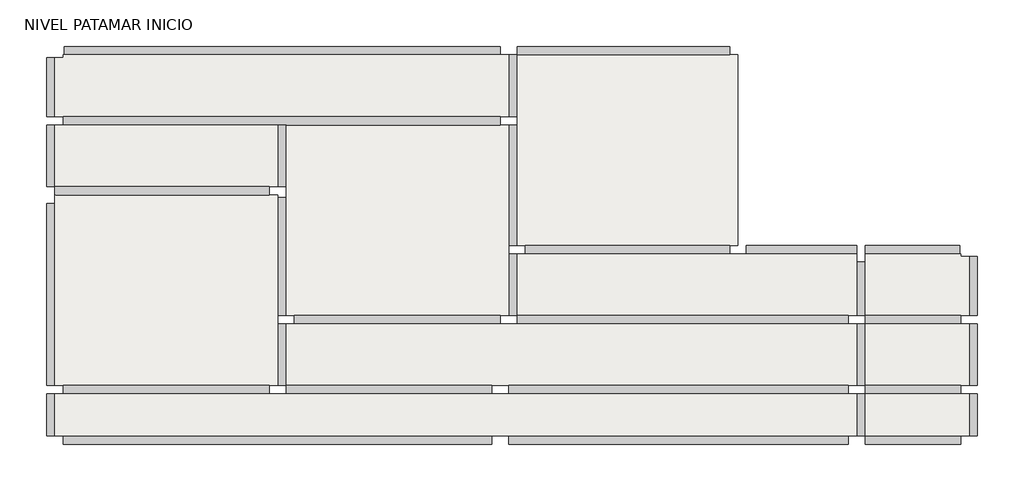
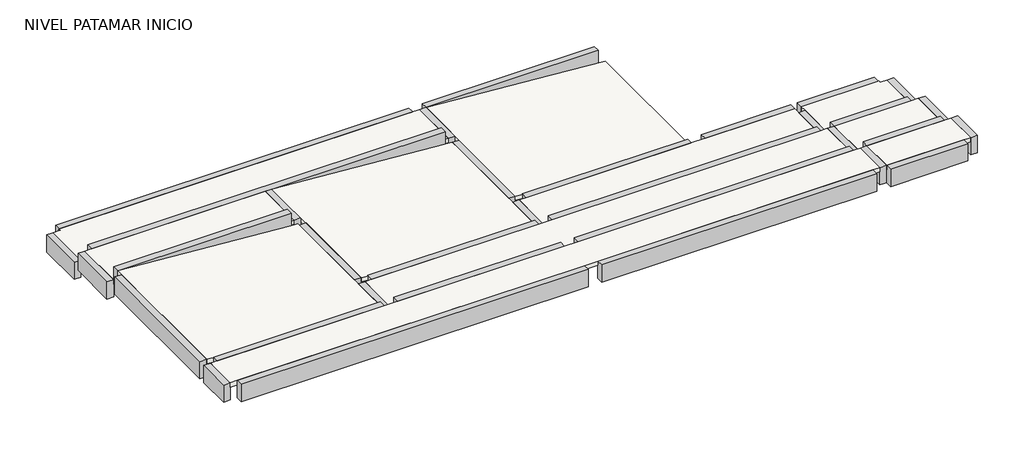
# One storey: 18 beams, 11 slabs.
"""IFC4 building model written with IfcOpenShell, lengths in millimetres."""

from ifc_helpers import new_model, si_unit, frame, origin, place, context, project, spatial, polyline, outline, extrude, faceted_brep, element, save

model = new_model("IFC4")

# Units and contexts
model_context = context("Model", 3, world=origin())
ifc_project = project(units=[si_unit("LENGTHUNIT", "METRE", prefix="MILLI")], contexts=[model_context])

# Site, building, storey
site = spatial("IfcSite", under=ifc_project)
building = spatial("IfcBuilding", under=site)
storey = spatial("IfcBuildingStorey", under=building, Name="NIVEL PATAMAR INICIO", Elevation=3600.0)

# Beams
placement = place(None, origin())
element("IfcBeam", 1, ObjectType="TQS - Viga retangular : 15,0 x 40,0", at=placement, inside=storey, context=model_context, shape_type="Brep", body=[
    faceted_brep([(38120.0, -10880.0, 3600.0), (38120.0, -11030.0, 3600.0), (45760.0, -11030.0, 3600.0), (45760.0, -10880.0, 3600.0), (38120.0, -11030.0, 3200.0), (45760.0, -11030.0, 3200.0), (38120.0, -10880.0, 3200.0), (45760.0, -10880.0, 3200.0)], [[[0, 1, 2, 3]], [[1, 4, 5, 2]], [[4, 6, 7, 5]], [[6, 0, 3, 7]], [[1, 0, 6, 4]], [[3, 2, 5, 7]]]),
    faceted_brep([(46060.0, -11030.0, 3600.0), (46060.0, -10880.0, 3600.0), (46060.0, -10880.0, 3200.0), (46060.0, -11030.0, 3200.0), (52120.0, -10880.0, 3600.0), (52120.0, -11030.0, 3600.0), (52120.0, -11030.0, 3200.0), (52120.0, -10880.0, 3200.0)], [[[0, 1, 2, 3]], [[4, 5, 6, 7]], [[1, 0, 5, 4]], [[0, 3, 6, 5]], [[3, 2, 7, 6]], [[2, 1, 4, 7]]]),
    faceted_brep([(52420.0, -10880.0, 3600.0), (52420.0, -11030.0, 3600.0), (54120.0, -11030.0, 3600.0), (54120.0, -10880.0, 3600.0), (52420.0, -11030.0, 3200.0), (54120.0, -11030.0, 3200.0), (52420.0, -10880.0, 3200.0), (54120.0, -10880.0, 3200.0), (52420.0, -10880.0, 3500.0)], [[[0, 1, 2, 3]], [[1, 4, 5, 2]], [[4, 6, 7, 5]], [[6, 8, 0, 3, 7]], [[1, 0, 8, 6, 4]], [[3, 2, 5, 7]]]),
])
element("IfcBeam", 2, ObjectType="TQS - Viga retangular : 15,0 x 40,0", at=placement, inside=storey, context=model_context, shape_type="Brep", body=[
    faceted_brep([(38120.0, -9980.0, 3600.0), (38120.0, -10130.0, 3600.0), (41790.0, -10130.0, 3600.0), (41790.0, -9980.0, 3600.0), (38120.0, -10130.0, 3200.0), (41790.0, -10130.0, 3200.0), (38120.0, -9980.0, 3200.0), (41790.0, -9980.0, 3200.0)], [[[0, 1, 2, 3]], [[1, 4, 5, 2]], [[4, 6, 7, 5]], [[6, 0, 3, 7]], [[1, 0, 6, 4]], [[3, 2, 5, 7]]]),
    faceted_brep([(42090.0, -10130.0, 3600.0), (42090.0, -9980.0, 3600.0), (42090.0, -9980.0, 3300.0), (42090.0, -9980.0, 3200.0), (42090.0, -10130.0, 3200.0), (45760.0, -9980.0, 3600.0), (45760.0, -10130.0, 3600.0), (45760.0, -10130.0, 3200.0), (45760.0, -9980.0, 3200.0)], [[[0, 1, 2, 3, 4]], [[5, 6, 7, 8]], [[1, 0, 6, 5]], [[0, 4, 7, 6]], [[4, 3, 8, 7]], [[3, 2, 1, 5, 8]]]),
    faceted_brep([(52120.0, -9980.0, 3600.0), (46060.0, -9980.0, 3600.0), (46060.0, -10130.0, 3600.0), (52120.0, -10130.0, 3600.0), (46060.0, -10130.0, 3200.0), (52120.0, -10130.0, 3200.0), (46060.0, -9980.0, 3200.0), (52120.0, -9980.0, 3200.0)], [[[0, 1, 2, 3]], [[3, 2, 4, 5]], [[5, 4, 6, 7]], [[1, 0, 7, 6]], [[2, 1, 6, 4]], [[0, 3, 5, 7]]]),
    faceted_brep([(52420.0, -10130.0, 3600.0), (52420.0, -9980.0, 3600.0), (52420.0, -9980.0, 3300.0), (52420.0, -9980.0, 3200.0), (52420.0, -10130.0, 3200.0), (52420.0, -10130.0, 3500.0), (54120.0, -9980.0, 3600.0), (54120.0, -10130.0, 3600.0), (54120.0, -10130.0, 3200.0), (54120.0, -9980.0, 3200.0)], [[[0, 1, 2, 3, 4, 5]], [[6, 7, 8, 9]], [[1, 0, 7, 6]], [[0, 5, 4, 8, 7]], [[4, 3, 9, 8]], [[3, 2, 1, 6, 9]]]),
])
element("IfcBeam", 3, ObjectType="TQS - Viga retangular : 15,0 x 40,0", at=placement, inside=storey, context=model_context, shape_type="Brep", body=[
    faceted_brep([(52420.0, -10130.0, 3600.0), (52270.0, -10130.0, 3600.0), (52270.0, -10880.0, 3600.0), (52420.0, -10880.0, 3600.0), (52420.0, -10130.0, 3200.0), (52420.0, -10130.0, 3500.0), (52420.0, -10880.0, 3500.0), (52420.0, -10880.0, 3200.0), (52270.0, -10130.0, 3200.0), (52270.0, -10880.0, 3200.0), (52270.0, -10130.0, 3500.0), (52270.0, -10880.0, 3500.0)], [[[0, 1, 2, 3]], [[4, 5, 0, 3, 6, 7]], [[8, 4, 7, 9]], [[1, 10, 8, 9, 11, 2]], [[2, 11, 9, 7, 6, 3]], [[1, 0, 5, 4, 8, 10]]]),
])
element("IfcBeam", 4, ObjectType="TQS - Viga retangular : 15,0 x 40,0", at=placement, inside=storey, context=model_context, shape_type="Brep", body=[
    faceted_brep([(37820.0, -10880.0, 3600.0), (37970.0, -10880.0, 3600.0), (37970.0, -10130.0, 3600.0), (37820.0, -10130.0, 3600.0), (37970.0, -10880.0, 3500.0), (37970.0, -10880.0, 3200.0), (37970.0, -10130.0, 3200.0), (37970.0, -10130.0, 3500.0), (37820.0, -10880.0, 3200.0), (37820.0, -10130.0, 3200.0)], [[[0, 1, 2, 3]], [[1, 4, 5, 6, 7, 2]], [[5, 8, 9, 6]], [[8, 0, 3, 9]], [[1, 0, 8, 5, 4]], [[3, 2, 7, 6, 9]]]),
    faceted_brep([(37970.0, -9980.0, 3600.0), (37820.0, -9980.0, 3600.0), (37820.0, -9980.0, 3200.0), (37970.0, -9980.0, 3200.0), (37970.0, -9980.0, 3499.7148897), (37970.0, -6730.0, 3600.0), (37820.0, -6730.0, 3600.0), (37970.0, -6730.0, 3200.0), (37820.0, -6730.0, 3200.0)], [[[0, 1, 2, 3, 4]], [[1, 0, 5, 6]], [[0, 4, 3, 7, 5]], [[3, 2, 8, 7]], [[2, 1, 6, 8]], [[6, 5, 7, 8]]]),
])
element("IfcBeam", 5, ObjectType="TQS - Viga retangular : 15,0 x 40,0", at=placement, inside=storey, context=model_context, shape_type="Brep", body=[
    faceted_brep([(41940.0, -9980.0, 3300.0), (42090.0, -9980.0, 3300.0), (42090.0, -8880.0, 3300.0), (41940.0, -8880.0, 3300.0), (42090.0, -9980.0, 3200.0), (42090.0, -9980.0, 2900.0), (42090.0, -8880.0, 2900.0), (42090.0, -8880.0, 3200.0), (41940.0, -9980.0, 2900.0), (41940.0, -8880.0, 2900.0), (41940.0, -9980.0, 3199.7148897)], [[[0, 1, 2, 3]], [[1, 4, 5, 6, 7, 2]], [[5, 8, 9, 6]], [[8, 10, 0, 3, 9]], [[3, 2, 7, 6, 9]], [[0, 10, 8, 5, 4, 1]]]),
    faceted_brep([(41940.0, -6630.0, 3300.0), (42090.0, -6630.0, 3300.0), (42090.0, -6630.0, 2900.0), (41940.0, -6630.0, 2900.0), (41940.0, -6630.0, 3199.7148897), (42090.0, -8730.0, 3300.0), (41940.0, -8730.0, 3300.0), (41940.0, -8730.0, 2900.0), (42090.0, -8730.0, 2900.0), (42090.0, -8730.0, 3199.7148897)], [[[0, 1, 2, 3, 4]], [[5, 6, 7, 8, 9]], [[1, 0, 6, 5]], [[2, 1, 5, 9, 8]], [[3, 2, 8, 7]], [[0, 4, 3, 7, 6]]]),
    faceted_brep([(42090.0, -6430.0, 3300.0), (41940.0, -6430.0, 3300.0), (41940.0, -6430.0, 3200.0), (41940.0, -6430.0, 2900.0), (42090.0, -6430.0, 2900.0), (42090.0, -5330.0, 3300.0), (41940.0, -5330.0, 3300.0), (42090.0, -5330.0, 2900.0), (42090.0, -5330.0, 3199.7148897), (41940.0, -5330.0, 2900.0), (41940.0, -5330.0, 3200.0)], [[[0, 1, 2, 3, 4]], [[1, 0, 5, 6]], [[0, 4, 7, 8, 5]], [[4, 3, 9, 7]], [[3, 2, 1, 6, 10, 9]], [[6, 5, 8, 7, 9, 10]]]),
])
element("IfcBeam", 6, ObjectType="TQS - Viga retangular : 15,0 x 40,0", at=placement, inside=storey, context=model_context, shape_type="Brep", body=[
    faceted_brep([(45910.0, -8880.0, 3300.0), (45910.0, -8730.0, 3300.0), (42240.0, -8730.0, 3300.0), (42240.0, -8880.0, 3300.0), (45910.0, -8880.0, 2900.0), (42240.0, -8880.0, 2900.0), (45910.0, -8730.0, 2900.0), (42240.0, -8730.0, 2900.0)], [[[0, 1, 2, 3]], [[4, 0, 3, 5]], [[6, 4, 5, 7]], [[1, 6, 7, 2]], [[1, 0, 4, 6]], [[3, 2, 7, 5]]]),
    faceted_brep([(46210.0, -8880.0, 3300.0), (46210.0, -8730.0, 3300.0), (46210.0, -8730.0, 3000.0), (46210.0, -8730.0, 2900.0), (46210.0, -8880.0, 2900.0), (52120.0, -8730.0, 3300.0), (52120.0, -8880.0, 3300.0), (52120.0, -8880.0, 2900.0), (52120.0, -8730.0, 2900.0)], [[[0, 1, 2, 3, 4]], [[5, 6, 7, 8]], [[1, 0, 6, 5]], [[0, 4, 7, 6]], [[4, 3, 8, 7]], [[3, 2, 1, 5, 8]]]),
    faceted_brep([(54120.0, -8730.0, 3300.0), (52420.0, -8730.0, 3300.0), (52420.0, -8880.0, 3300.0), (54120.0, -8880.0, 3300.0), (52420.0, -8880.0, 3200.0), (52420.0, -8880.0, 2900.0), (54120.0, -8880.0, 2900.0), (52420.0, -8730.0, 2900.0), (54120.0, -8730.0, 2900.0), (52420.0, -8730.0, 3000.0)], [[[0, 1, 2, 3]], [[3, 2, 4, 5, 6]], [[6, 5, 7, 8]], [[1, 0, 8, 7, 9]], [[2, 1, 9, 7, 5, 4]], [[0, 3, 6, 8]]]),
])
element("IfcBeam", 7, ObjectType="TQS - Viga retangular : 15,0 x 40,0", at=placement, inside=storey, context=model_context, shape_type="Brep", body=[
    faceted_brep([(45910.0, -5330.0, 3300.0), (45910.0, -5180.0, 3300.0), (38120.0, -5180.0, 3300.0), (38120.0, -5330.0, 3300.0), (41940.0, -5330.0, 3300.0), (42090.0, -5330.0, 3300.0), (45910.0, -5330.0, 2900.0), (38120.0, -5330.0, 2900.0), (41940.0, -5330.0, 2900.0), (42090.0, -5330.0, 2900.0), (45910.0, -5180.0, 2900.0), (38120.0, -5180.0, 2900.0)], [[[0, 1, 2, 3, 4, 5]], [[6, 0, 5, 4, 3, 7, 8, 9]], [[10, 6, 9, 8, 7, 11]], [[1, 10, 11, 2]], [[1, 0, 6, 10]], [[3, 2, 11, 7]]]),
])
element("IfcBeam", 8, ObjectType="TQS - Viga retangular : 15,0 x 40,0", at=placement, inside=storey, context=model_context, shape_type="Brep", body=[
    faceted_brep([(41790.0, -6580.0, 3600.0), (41790.0, -6430.0, 3600.0), (37970.0, -6430.0, 3600.0), (37970.0, -6580.0, 3600.0), (41790.0, -6580.0, 3200.0), (41790.0, -6580.0, 3211.0499023), (41790.0, -6580.0, 3311.3350126), (37970.0, -6580.0, 3499.7148897), (37970.0, -6580.0, 3200.0), (41790.0, -6430.0, 3200.0), (37970.0, -6430.0, 3200.0), (37970.0, -6430.0, 3300.0)], [[[0, 1, 2, 3]], [[4, 5, 6, 0, 3, 7, 8]], [[9, 4, 8, 10]], [[1, 9, 10, 11, 2]], [[1, 0, 6, 5, 4, 9]], [[2, 11, 10, 8, 7, 3]]]),
])
element("IfcBeam", 9, ObjectType="TQS - Viga retangular : 15,0 x 40,0", at=placement, inside=storey, context=model_context, shape_type="Brep", body=[
    faceted_brep([(46060.0, -8730.0, 3000.0), (46210.0, -8730.0, 3000.0), (46210.0, -7630.0, 3000.0), (46060.0, -7630.0, 3000.0), (46210.0, -7630.0, 2600.0), (46210.0, -8730.0, 2600.0), (46060.0, -8730.0, 2600.0), (46060.0, -7630.0, 2600.0), (46060.0, -7630.0, 2700.0), (46210.0, -7630.0, 2900.0), (46210.0, -8730.0, 2900.0), (46210.0, -8730.0, 2700.0), (46060.0, -8730.0, 2899.7148897)], [[[0, 1, 2, 3]], [[4, 5, 6, 7]], [[4, 7, 8, 3, 2, 9]], [[5, 4, 9, 2, 1, 10, 11]], [[3, 8, 7, 6, 12, 0]], [[0, 12, 6, 5, 11, 10, 1]]]),
    faceted_brep([(46210.0, -5180.0, 3000.0), (46210.0, -5180.0, 2700.0), (46210.0, -5180.0, 2600.0), (46210.0, -4080.0, 2600.0), (46210.0, -4080.0, 2700.0), (46210.0, -4080.0, 2899.710538), (46210.0, -4080.0, 3000.0), (46060.0, -5180.0, 2600.0), (46060.0, -5180.0, 2900.0), (46060.0, -5180.0, 3000.0), (46060.0, -4080.0, 3000.0), (46060.0, -4080.0, 2900.0), (46060.0, -4080.0, 2600.0)], [[[0, 1, 2, 3, 4, 5, 6]], [[7, 8, 9, 10, 11, 12]], [[7, 2, 1, 0, 9, 8]], [[2, 7, 12, 3]], [[9, 0, 6, 10]], [[6, 5, 4, 3, 12, 11, 10]]]),
    faceted_brep([(46210.0, -5330.0, 2600.0), (46060.0, -5330.0, 2600.0), (46060.0, -5330.0, 2899.7148897), (46060.0, -5330.0, 3000.0), (46210.0, -5330.0, 3000.0), (46210.0, -5330.0, 2700.0), (46210.0, -7480.0, 3000.0), (46210.0, -7480.0, 2899.710538), (46210.0, -7480.0, 2600.0), (46060.0, -7480.0, 2600.0), (46060.0, -7480.0, 2700.0), (46060.0, -7480.0, 3000.0)], [[[0, 1, 2, 3, 4, 5]], [[0, 5, 4, 6, 7, 8]], [[3, 2, 1, 9, 10, 11]], [[6, 11, 10, 9, 8, 7]], [[1, 0, 8, 9]], [[4, 3, 11, 6]]]),
])
element("IfcBeam", 10, ObjectType="TQS - Viga retangular : 15,0 x 40,0", at=placement, inside=storey, context=model_context, shape_type="Brep", body=[
    faceted_brep([(54107.3, -7480.0, 3000.0), (54107.3, -7630.0, 3000.0), (54107.3, -7630.0, 2600.0), (54107.3, -7480.0, 2600.0), (52420.0, -7480.0, 3000.0), (52420.0, -7630.0, 3000.0), (52420.0, -7630.0, 2900.0), (52420.0, -7630.0, 2600.0), (52420.0, -7480.0, 2600.0), (52420.0, -7480.0, 2700.0)], [[[0, 1, 2, 3]], [[1, 0, 4, 5]], [[2, 1, 5, 6, 7]], [[3, 2, 7, 8]], [[0, 3, 8, 9, 4]], [[7, 6, 5, 4, 9, 8]]]),
    faceted_brep([(50000.0, -7630.0, 2600.0), (50000.0, -7480.0, 2600.0), (50000.0, -7480.0, 2700.0), (50000.0, -7480.0, 3000.0), (50000.0, -7630.0, 3000.0), (50000.0, -7630.0, 2700.0), (46360.0, -7630.0, 2600.0), (46360.0, -7480.0, 2600.0), (46360.0, -7480.0, 3000.0), (46360.0, -7630.0, 3000.0), (46360.0, -7630.0, 2700.0), (46360.0, -7480.0, 2700.0)], [[[0, 1, 2, 3, 4, 5]], [[1, 0, 6, 7]], [[4, 3, 8, 9]], [[0, 5, 4, 9, 10, 6]], [[3, 2, 1, 7, 11, 8]], [[9, 8, 11, 7, 6, 10]]]),
    faceted_brep([(50300.0, -7480.0, 2600.0), (50300.0, -7630.0, 2600.0), (50300.0, -7630.0, 2700.0), (50300.0, -7630.0, 3000.0), (50300.0, -7480.0, 3000.0), (50300.0, -7480.0, 2700.0), (52270.0, -7630.0, 3000.0), (52270.0, -7630.0, 2900.0), (52270.0, -7630.0, 2600.0), (52270.0, -7480.0, 2600.0), (52270.0, -7480.0, 2700.0), (52270.0, -7480.0, 3000.0)], [[[0, 1, 2, 3, 4, 5]], [[6, 7, 8, 9, 10, 11]], [[3, 2, 1, 8, 7, 6]], [[0, 5, 4, 11, 10, 9]], [[1, 0, 9, 8]], [[4, 3, 6, 11]]]),
])
element("IfcBeam", 11, ObjectType="TQS - Viga retangular : 15,0 x 40,0", at=placement, inside=storey, context=model_context, shape_type="Brep", body=[
    faceted_brep([(52420.0, -7780.0, 3000.0), (52270.0, -7780.0, 3000.0), (52270.0, -8730.0, 3000.0), (52420.0, -8730.0, 3000.0), (52420.0, -7780.0, 2600.0), (52420.0, -7780.0, 2700.0), (52420.0, -8730.0, 2900.0), (52420.0, -8730.0, 2700.0), (52420.0, -8730.0, 2600.0), (52270.0, -7780.0, 2600.0), (52270.0, -8730.0, 2600.0), (52270.0, -7780.0, 2700.0), (52270.0, -8730.0, 2900.0)], [[[0, 1, 2, 3]], [[4, 5, 0, 3, 6, 7, 8]], [[9, 4, 8, 10]], [[1, 11, 9, 10, 12, 2]], [[1, 0, 5, 4, 9, 11]], [[2, 12, 10, 8, 7, 6, 3]]]),
])
element("IfcBeam", 12, ObjectType="TQS - Viga retangular : 15,0 x 40,0", at=placement, inside=storey, context=model_context, shape_type="Brep", body=[
    faceted_brep([(37970.0, -5330.0, 3300.0), (37820.0, -5330.0, 3300.0), (37820.0, -6430.0, 3300.0), (37970.0, -6430.0, 3300.0), (37970.0, -5330.0, 2900.0), (37970.0, -5330.0, 3200.0), (37970.0, -6430.0, 3200.0), (37970.0, -6430.0, 2900.0), (37820.0, -5330.0, 2900.0), (37820.0, -6430.0, 2900.0)], [[[0, 1, 2, 3]], [[4, 5, 0, 3, 6, 7]], [[8, 4, 7, 9]], [[1, 8, 9, 2]], [[2, 9, 7, 6, 3]], [[1, 0, 5, 4, 8]]]),
])
element("IfcBeam", 13, ObjectType="TQS - Viga retangular : 15,0 x 40,0", at=placement, inside=storey, context=model_context, shape_type="Brep", body=[
    faceted_brep([(38132.7, -4080.0, 3000.0), (38132.7, -3930.0, 3000.0), (38132.7, -3930.0, 2700.0), (38132.7, -4080.0, 2700.0), (45910.0, -3930.0, 3000.0), (45910.0, -4080.0, 3000.0), (45910.0, -4080.0, 2700.0), (45910.0, -3930.0, 2700.0)], [[[0, 1, 2, 3]], [[4, 5, 6, 7]], [[1, 0, 5, 4]], [[5, 0, 3, 6]], [[1, 4, 7, 2]], [[3, 2, 7, 6]]]),
    faceted_brep([(50000.0, -4080.0, 3000.0), (50000.0, -3930.0, 3000.0), (46210.0, -3930.0, 3000.0), (46210.0, -4080.0, 3000.0), (46210.0, -4080.0, 2899.710538), (46210.0, -4080.0, 2700.0), (50000.0, -4080.0, 2700.0), (50000.0, -3930.0, 2700.0), (46210.0, -3930.0, 2700.0)], [[[0, 1, 2, 3]], [[0, 3, 4, 5, 6]], [[2, 1, 7, 8]], [[1, 0, 6, 7]], [[3, 2, 8, 5, 4]], [[6, 5, 8, 7]]]),
])
element("IfcBeam", 14, ObjectType="TQS - Viga retangular : 15,0 x 40,0", at=placement, inside=storey, context=model_context, shape_type="Brep", body=[
    faceted_brep([(37970.0, -5180.0, 3000.0), (37970.0, -4130.0, 3000.0), (37820.0, -4130.0, 3000.0), (37820.0, -5180.0, 3000.0), (37970.0, -5180.0, 2900.0), (37970.0, -5180.0, 2600.0), (37970.0, -4130.0, 2600.0), (37970.0, -4130.0, 2900.0), (37820.0, -5180.0, 2600.0), (37820.0, -4130.0, 2600.0), (37820.0, -4130.0, 2700.0), (37820.0, -5180.0, 2700.0)], [[[0, 1, 2, 3]], [[0, 4, 5, 6, 7, 1]], [[6, 5, 8, 9]], [[2, 10, 9, 8, 11, 3]], [[6, 9, 10, 2, 1, 7]], [[0, 3, 11, 8, 5, 4]]]),
])
element("IfcBeam", 15, ObjectType="TQS - Viga retangular : 15,0 x 40,0", at=placement, inside=storey, context=model_context, shape_type="Brep", body=[
    faceted_brep([(52270.0, -9980.0, 3300.0), (52420.0, -9980.0, 3300.0), (52420.0, -8880.0, 3300.0), (52270.0, -8880.0, 3300.0), (52270.0, -9980.0, 2900.0), (52270.0, -9980.0, 3200.0), (52270.0, -8880.0, 3200.0), (52270.0, -8880.0, 2900.0), (52420.0, -9980.0, 2900.0), (52420.0, -8880.0, 2900.0), (52420.0, -9980.0, 3200.0), (52420.0, -8880.0, 3200.0)], [[[0, 1, 2, 3]], [[4, 5, 0, 3, 6, 7]], [[8, 4, 7, 9]], [[1, 10, 8, 9, 11, 2]], [[1, 0, 5, 4, 8, 10]], [[2, 11, 9, 7, 6, 3]]]),
])
element("IfcBeam", 16, ObjectType="TQS - Viga retangular : 15,0 x 40,0", at=placement, inside=storey, context=model_context, shape_type="Brep", body=[
    faceted_brep([(54270.0, -9980.0, 3300.0), (54420.0, -9980.0, 3300.0), (54420.0, -8880.0, 3300.0), (54270.0, -8880.0, 3300.0), (54270.0, -9980.0, 2900.0), (54270.0, -9980.0, 3200.0), (54270.0, -8880.0, 3200.0), (54270.0, -8880.0, 2900.0), (54420.0, -9980.0, 2900.0), (54420.0, -8880.0, 2900.0)], [[[0, 1, 2, 3]], [[4, 5, 0, 3, 6, 7]], [[8, 4, 7, 9]], [[1, 8, 9, 2]], [[1, 0, 5, 4, 8]], [[2, 9, 7, 6, 3]]]),
])
element("IfcBeam", 17, ObjectType="TQS - Viga retangular : 15,0 x 40,0", at=placement, inside=storey, context=model_context, shape_type="Brep", body=[
    faceted_brep([(54270.0, -10880.0, 3600.0), (54420.0, -10880.0, 3600.0), (54420.0, -10130.0, 3600.0), (54270.0, -10130.0, 3600.0), (54270.0, -10880.0, 3200.0), (54270.0, -10880.0, 3500.0), (54270.0, -10130.0, 3500.0), (54270.0, -10130.0, 3200.0), (54420.0, -10880.0, 3200.0), (54420.0, -10130.0, 3200.0)], [[[0, 1, 2, 3]], [[4, 5, 0, 3, 6, 7]], [[8, 4, 7, 9]], [[1, 8, 9, 2]], [[2, 9, 7, 6, 3]], [[1, 0, 5, 4, 8]]]),
])
element("IfcBeam", 18, ObjectType="TQS - Viga retangular : 15,0 x 40,0", at=placement, inside=storey, context=model_context, shape_type="Brep", body=[
    faceted_brep([(54270.0, -8730.0, 3000.0), (54420.0, -8730.0, 3000.0), (54420.0, -7680.0, 3000.0), (54270.0, -7680.0, 3000.0), (54270.0, -8730.0, 2600.0), (54270.0, -8730.0, 2900.0), (54270.0, -7680.0, 2900.0), (54270.0, -7680.0, 2600.0), (54420.0, -8730.0, 2600.0), (54420.0, -7680.0, 2600.0), (54420.0, -8730.0, 2700.0), (54420.0, -7680.0, 2700.0)], [[[0, 1, 2, 3]], [[4, 5, 0, 3, 6, 7]], [[8, 4, 7, 9]], [[1, 10, 8, 9, 11, 2]], [[4, 8, 10, 1, 0, 5]], [[3, 2, 11, 9, 7, 6]]]),
])

# Slabs
element("IfcSlab", 19, ObjectType="h=10", at=placement, inside=storey, context=model_context, shape_type="Brep", body=[
    faceted_brep([(52270.0, -10130.0, 3500.0), (52270.0, -10880.0, 3500.0), (37970.0, -10880.0, 3500.0), (37970.0, -10130.0, 3500.0), (52270.0, -10130.0, 3600.0), (52120.0, -10130.0, 3600.0), (46060.0, -10130.0, 3600.0), (45760.0, -10130.0, 3600.0), (42090.0, -10130.0, 3600.0), (41790.0, -10130.0, 3600.0), (38120.0, -10130.0, 3600.0), (37970.0, -10130.0, 3600.0), (37970.0, -10880.0, 3600.0), (38120.0, -10880.0, 3600.0), (45760.0, -10880.0, 3600.0), (46060.0, -10880.0, 3600.0), (52120.0, -10880.0, 3600.0), (52270.0, -10880.0, 3600.0)], [[[0, 1, 2, 3]], [[4, 5, 6, 7, 8, 9, 10, 11, 12, 13, 14, 15, 16, 17]], [[1, 0, 4, 17]], [[2, 1, 17, 16, 15, 14, 13, 12]], [[3, 2, 12, 11]], [[0, 3, 11, 10, 9, 8, 7, 6, 5, 4]]]),
])
element("IfcSlab", 20, ObjectType="h=10", at=placement, inside=storey, context=model_context, shape_type="Brep", body=[
    faceted_brep([(42090.0, -9980.0, 3200.0), (42090.0, -8880.0, 3200.0), (52270.0, -8880.0, 3200.0), (52270.0, -9980.0, 3200.0), (52120.0, -9980.0, 3200.0), (46060.0, -9980.0, 3200.0), (45760.0, -9980.0, 3200.0), (42090.0, -9980.0, 3300.0), (52270.0, -9980.0, 3300.0), (52270.0, -8880.0, 3300.0), (52120.0, -8880.0, 3300.0), (46210.0, -8880.0, 3300.0), (45910.0, -8880.0, 3300.0), (42240.0, -8880.0, 3300.0), (42090.0, -8880.0, 3300.0)], [[[0, 1, 2, 3, 4, 5, 6]], [[7, 8, 9, 10, 11, 12, 13, 14]], [[1, 0, 7, 14]], [[2, 1, 14, 13, 12, 11, 10, 9]], [[3, 2, 9, 8]], [[0, 6, 5, 4, 3, 8, 7]]]),
])
element("IfcSlab", 21, ObjectType="h=10", at=placement, inside=storey, context=model_context, shape_type="Brep", body=[
    faceted_brep([(46210.0, -8730.0, 2900.0), (46210.0, -7630.0, 2900.0), (52270.0, -7630.0, 2900.0), (52270.0, -8730.0, 2900.0), (52120.0, -8730.0, 2900.0), (46210.0, -8730.0, 3000.0), (52270.0, -8730.0, 3000.0), (52270.0, -7780.0, 3000.0), (52270.0, -7630.0, 3000.0), (50300.0, -7630.0, 3000.0), (50000.0, -7630.0, 3000.0), (46360.0, -7630.0, 3000.0), (46210.0, -7630.0, 3000.0)], [[[0, 1, 2, 3, 4]], [[5, 6, 7, 8, 9, 10, 11, 12]], [[1, 0, 5, 12]], [[2, 1, 12, 11, 10, 9, 8]], [[3, 2, 8, 7, 6]], [[0, 4, 3, 6, 5]]]),
])
element("IfcSlab", 22, ObjectType="h=10", at=placement, inside=storey, context=model_context, shape_type="Brep", body=[
    faceted_brep([(41940.0, -5330.0, 3200.0), (41940.0, -6430.0, 3200.0), (41790.0, -6430.0, 3200.0), (37970.0, -6430.0, 3200.0), (37970.0, -5330.0, 3200.0), (41940.0, -5330.0, 3300.0), (38120.0, -5330.0, 3300.0), (37970.0, -5330.0, 3300.0), (37970.0, -6430.0, 3300.0), (41940.0, -6430.0, 3300.0)], [[[0, 1, 2, 3, 4]], [[5, 6, 7, 8, 9]], [[1, 0, 5, 9]], [[3, 2, 1, 9, 8]], [[4, 3, 8, 7]], [[0, 4, 7, 6, 5]]]),
])
element("IfcSlab", 23, ObjectType="h=10", at=placement, inside=storey, context=model_context, shape_type="Brep", body=[
    faceted_brep([(46060.0, -4080.0, 2900.0), (46060.0, -5180.0, 2900.0), (45910.0, -5180.0, 2900.0), (38120.0, -5180.0, 2900.0), (37970.0, -5180.0, 2900.0), (37970.0, -4130.0, 2900.0), (38120.0, -4130.0, 2900.0), (38120.0, -4080.0, 2900.0), (46060.0, -4080.0, 3000.0), (45910.0, -4080.0, 3000.0), (38132.7, -4080.0, 3000.0), (38120.0, -4080.0, 3000.0), (38120.0, -4130.0, 3000.0), (37970.0, -4130.0, 3000.0), (37970.0, -5180.0, 3000.0), (46060.0, -5180.0, 3000.0)], [[[0, 1, 2, 3, 4, 5, 6, 7]], [[8, 9, 10, 11, 12, 13, 14, 15]], [[1, 0, 8, 15]], [[4, 3, 2, 1, 15, 14]], [[5, 4, 14, 13]], [[6, 5, 13, 12]], [[7, 6, 12, 11]], [[0, 7, 11, 10, 9, 8]]]),
])
element("IfcSlab", 24, ObjectType="h=10", at=placement, inside=storey, context=model_context, shape_type="Brep", body=[
    faceted_brep([(54270.0, -10880.0, 3500.0), (52420.0, -10880.0, 3500.0), (52420.0, -10130.0, 3500.0), (54270.0, -10130.0, 3500.0), (54270.0, -10880.0, 3600.0), (54270.0, -10130.0, 3600.0), (54120.0, -10130.0, 3600.0), (52420.0, -10130.0, 3600.0), (52420.0, -10880.0, 3600.0), (54120.0, -10880.0, 3600.0)], [[[0, 1, 2, 3]], [[4, 5, 6, 7, 8, 9]], [[1, 0, 4, 9, 8]], [[2, 1, 8, 7]], [[3, 2, 7, 6, 5]], [[0, 3, 5, 4]]]),
])
element("IfcSlab", 25, ObjectType="h=10", at=placement, inside=storey, context=model_context, shape_type="Brep", body=[
    faceted_brep([(52420.0, -9980.0, 3200.0), (52420.0, -8880.0, 3200.0), (54270.0, -8880.0, 3200.0), (54270.0, -9980.0, 3200.0), (54120.0, -9980.0, 3200.0), (52420.0, -9980.0, 3300.0), (54270.0, -9980.0, 3300.0), (54270.0, -8880.0, 3300.0), (54120.0, -8880.0, 3300.0), (52420.0, -8880.0, 3300.0)], [[[0, 1, 2, 3, 4]], [[5, 6, 7, 8, 9]], [[1, 0, 5, 9]], [[2, 1, 9, 8, 7]], [[3, 2, 7, 6]], [[0, 4, 3, 6, 5]]]),
])
element("IfcSlab", 26, ObjectType="h=10", at=placement, inside=storey, context=model_context, shape_type="Brep", body=[
    faceted_brep([(52420.0, -7630.0, 2900.0), (54120.0, -7630.0, 2900.0), (54120.0, -7680.0, 2900.0), (54270.0, -7680.0, 2900.0), (54270.0, -8730.0, 2900.0), (54120.0, -8730.0, 2900.0), (52420.0, -8730.0, 2900.0), (52420.0, -7630.0, 3000.0), (52420.0, -7780.0, 3000.0), (52420.0, -8730.0, 3000.0), (54270.0, -8730.0, 3000.0), (54270.0, -7680.0, 3000.0), (54120.0, -7680.0, 3000.0), (54120.0, -7630.0, 3000.0), (54107.3, -7630.0, 3000.0)], [[[0, 1, 2, 3, 4, 5, 6]], [[7, 8, 9, 10, 11, 12, 13, 14]], [[1, 0, 7, 14, 13]], [[2, 1, 13, 12]], [[3, 2, 12, 11]], [[4, 3, 11, 10]], [[6, 5, 4, 10, 9]], [[0, 6, 9, 8, 7]]]),
])
element("IfcSlab", 27, ObjectType="h=10", at=placement, inside=storey, context=model_context, shape_type="Brep", body=[
    faceted_brep([(37970.0, -9980.0, 3499.7148897), (37970.0, -6580.0, 3499.7148897), (41790.0, -6580.0, 3211.0499023), (41940.0, -6580.0, 3199.7148897), (41940.0, -6630.0, 3199.7148897), (41940.0, -9980.0, 3199.7148897), (37970.0, -9980.0, 3600.0), (41940.0, -9980.0, 3300.0), (41940.0, -6630.0, 3300.0), (41940.0, -6580.0, 3300.0), (41790.0, -6580.0, 3311.3350126), (37970.0, -6580.0, 3600.0)], [[[0, 1, 2, 3, 4, 5]], [[6, 7, 8, 9, 10, 11]], [[1, 0, 6, 11]], [[3, 2, 1, 11, 10, 9]], [[5, 4, 3, 9, 8, 7]], [[0, 5, 7, 6]]]),
])
element("IfcSlab", 28, ObjectType="h=10", at=placement, inside=storey, context=model_context, shape_type="SweptSolid", body=[
    extrude(outline(polyline([(3199.7148897, 42090.0), (2899.7148897, 46060.0), (3000.0, 46060.0), (3300.0, 42090.0), (3199.7148897, 42090.0)])), frame((0.0, -8730.0, 0.0), z_axis=(0.0, 1.0, 0.0), x_axis=(0.0, 0.0, 1.0)), (0.0, 0.0, 1.0), 3400.0),
])
element("IfcSlab", 29, ObjectType="h=10", at=placement, inside=storey, context=model_context, shape_type="SweptSolid", body=[
    extrude(outline(polyline([(2899.710538, 46210.0), (2599.7106811, 50150.0), (2700.0001431, 50150.0), (3000.0, 46210.0), (2899.710538, 46210.0)])), frame((0.0, -7480.0, 0.0), z_axis=(0.0, 1.0, 0.0), x_axis=(0.0, 0.0, 1.0)), (0.0, 0.0, 1.0), 3400.0),
])

save(model, "model.ifc")
